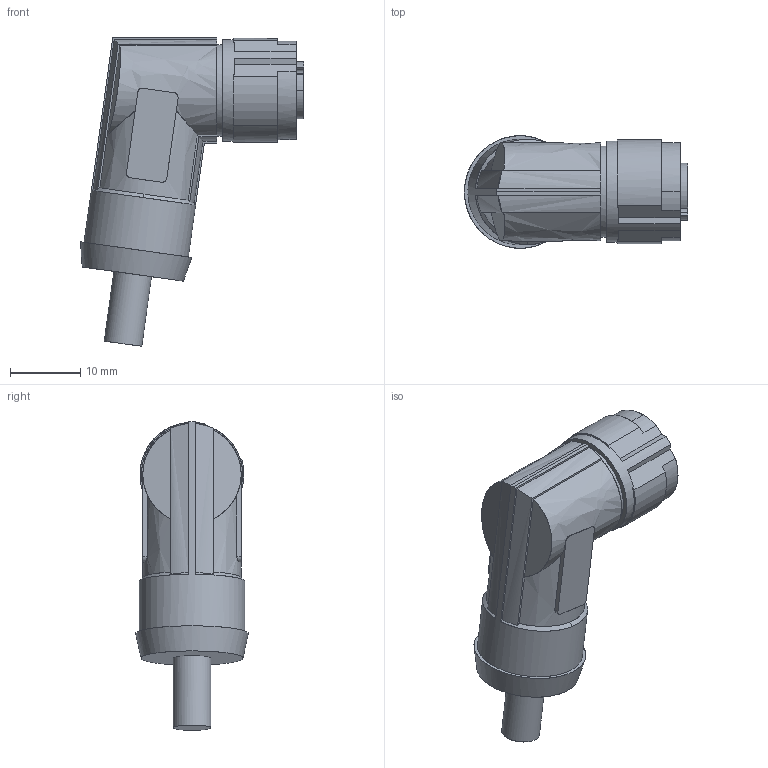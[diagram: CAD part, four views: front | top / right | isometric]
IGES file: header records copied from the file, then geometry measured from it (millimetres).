
Start section: C
Global section: file name: ESW 33ABxxxxG.igs; native system:  By UGS Corp.; preprocessor: XPlus GENERIC/IGES 3.0; author: Author; organization: Title; date: 20160407.162631; units: millimetre
Bounding box: 31.72 x 15.96 x 43.88 mm (x, y, z)
Surface area: 3459.2 mm2 (no closed solid volume)
Topology: 0 solids, 0 shells, 98 faces, 948 edges, 948 vertices
Faces by surface type: bspline 98
